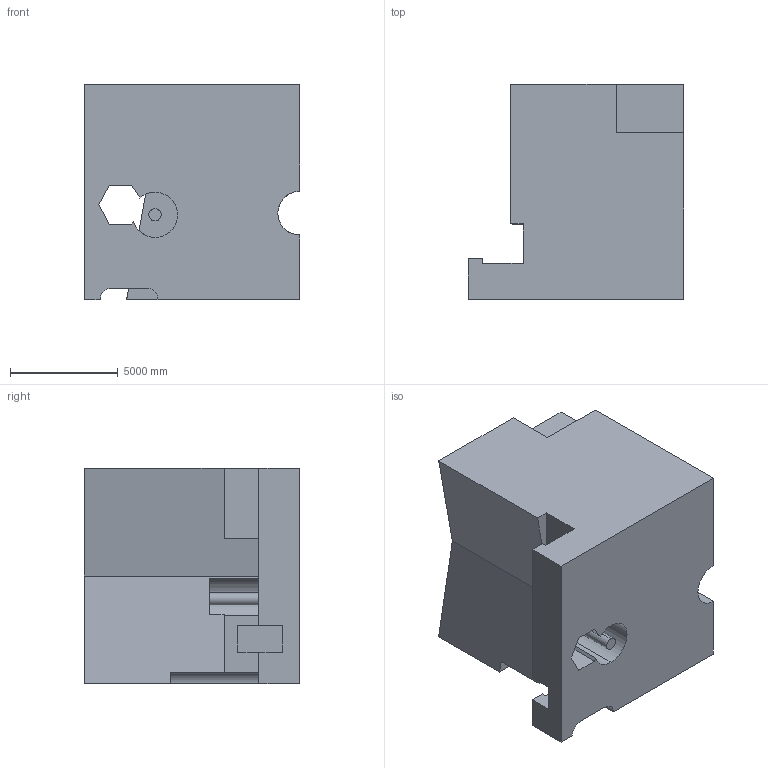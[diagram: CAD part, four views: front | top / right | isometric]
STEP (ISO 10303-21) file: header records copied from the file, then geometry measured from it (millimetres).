
FILE_DESCRIPTION (( 'STEP AP203' ), '1' );
FILE_NAME ('167.STEP', '2022-08-31T12:06:08', ( 'user' ), ( '' ), 'SwSTEP 2.0', 'SolidWorks 2021', '' );
FILE_SCHEMA (( 'CONFIG_CONTROL_DESIGN' ));
Length unit declared in the file: centimetre
Products named in the file (1): 167
Bounding box: 10000 x 10000 x 10000 mm (x, y, z)
Volume: 743220894979.1 mm3; surface area: 621338254.4 mm2
Topology: 1 solids, 1 shells, 51 faces, 147 edges, 98 vertices
Faces by surface type: plane 41, cylinder 10
Entity records: 1798 total; most frequent: CARTESIAN_POINT 352, ORIENTED_EDGE 294, DIRECTION 273, EDGE_CURVE 147, VECTOR 123, LINE 123, VERTEX_POINT 98, AXIS2_PLACEMENT_3D 75
